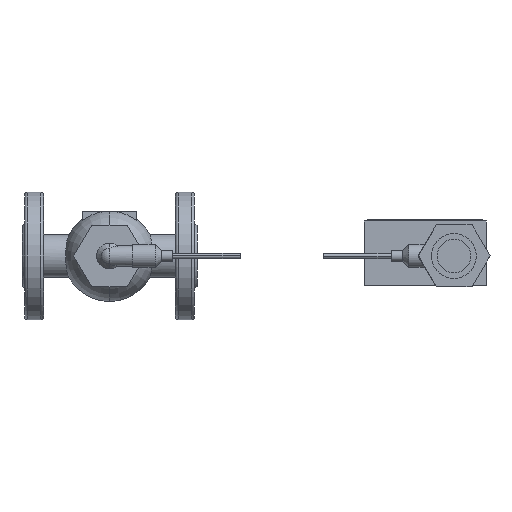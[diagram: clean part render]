
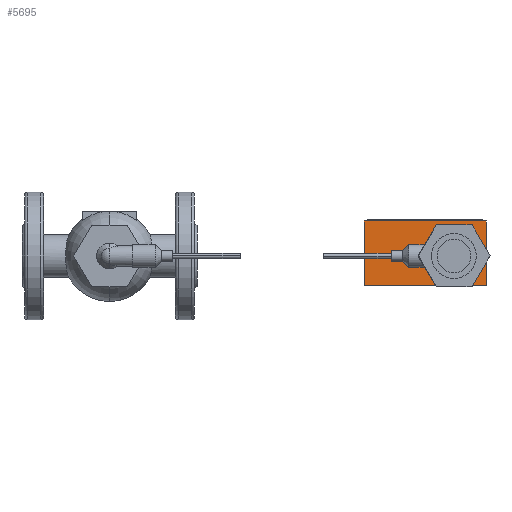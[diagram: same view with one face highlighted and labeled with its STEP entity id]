
A CAD part, front view. The second image highlights one B-rep face of the part: STEP entity #5695.
In plain terms, the highlighted planar face has unit normal (0, -1, 0).
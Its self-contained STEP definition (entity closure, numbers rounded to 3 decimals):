
#445 = CARTESIAN_POINT ( 'NONE',  ( 255.855, -288.685, 19. ) ) ;
#1132 = CARTESIAN_POINT ( 'NONE',  ( 255.855, -288.685, -19. ) ) ;
#1133 = DIRECTION ( 'NONE',  ( 0., 0., 1. ) ) ;
#1134 = DIRECTION ( 'NONE',  ( 0., -1., 0. ) ) ;
#1135 = CARTESIAN_POINT ( 'NONE',  ( 255.855, -288.685, 0. ) ) ;
#1136 = AXIS2_PLACEMENT_3D ( 'NONE', #1135, #1134, #1133 ) ;
#1137 = CIRCLE ( 'NONE', #1136, 19. ) ;
#1265 = DIRECTION ( 'NONE',  ( 1., 0., 0. ) ) ;
#1266 = VECTOR ( 'NONE', #1265, 1000. ) ;
#1267 = CARTESIAN_POINT ( 'NONE',  ( 279.855, -288.685, -22. ) ) ;
#1268 = LINE ( 'NONE', #1267, #1266 ) ;
#1290 = CARTESIAN_POINT ( 'NONE',  ( 279.855, -288.685, 26. ) ) ;
#1291 = CARTESIAN_POINT ( 'NONE',  ( 189.355, -288.685, 26. ) ) ;
#1292 = DIRECTION ( 'NONE',  ( 1., 0., 0. ) ) ;
#1293 = VECTOR ( 'NONE', #1292, 1000. ) ;
#1294 = CARTESIAN_POINT ( 'NONE',  ( 279.855, -288.685, 26. ) ) ;
#1295 = LINE ( 'NONE', #1294, #1293 ) ;
#1378 = CARTESIAN_POINT ( 'NONE',  ( 279.855, -288.685, -22. ) ) ;
#1379 = CARTESIAN_POINT ( 'NONE',  ( 189.355, -288.685, -22. ) ) ;
#1473 = DIRECTION ( 'NONE',  ( 0., 0., -1. ) ) ;
#1474 = VECTOR ( 'NONE', #1473, 1000. ) ;
#1475 = CARTESIAN_POINT ( 'NONE',  ( 189.355, -288.685, 26. ) ) ;
#1476 = LINE ( 'NONE', #1475, #1474 ) ;
#1575 = DIRECTION ( 'NONE',  ( 0., 0., 1. ) ) ;
#1576 = DIRECTION ( 'NONE',  ( 0., 1., 0. ) ) ;
#1577 = CARTESIAN_POINT ( 'NONE',  ( 279.855, -288.685, 26. ) ) ;
#1578 = AXIS2_PLACEMENT_3D ( 'NONE', #1577, #1576, #1575 ) ;
#1579 = PLANE ( 'NONE',  #1578 ) ;
#1581 = FACE_OUTER_BOUND ( 'NONE', #5937, .T. ) ;
#1582 = FACE_BOUND ( 'NONE', #5696, .T. ) ;
#2298 = DIRECTION ( 'NONE',  ( 0., 0., 1. ) ) ;
#2299 = DIRECTION ( 'NONE',  ( 0., -1., 0. ) ) ;
#2300 = AXIS2_PLACEMENT_3D ( 'NONE', #2352, #2299, #2298 ) ;
#2347 = CIRCLE ( 'NONE', #2300, 19. ) ;
#2352 = CARTESIAN_POINT ( 'NONE',  ( 255.855, -288.685, 0. ) ) ;
#2433 = DIRECTION ( 'NONE',  ( 0., 0., -1. ) ) ;
#2434 = VECTOR ( 'NONE', #2433, 1000. ) ;
#2435 = CARTESIAN_POINT ( 'NONE',  ( 279.855, -288.685, 26. ) ) ;
#2436 = LINE ( 'NONE', #2435, #2434 ) ;
#5142 = VERTEX_POINT ( 'NONE', #445 ) ;
#5345 = EDGE_CURVE ( 'NONE', #5346, #5142, #1137, .T. ) ;
#5346 = VERTEX_POINT ( 'NONE', #1132 ) ;
#5495 = EDGE_CURVE ( 'NONE', #5496, #5497, #1295, .T. ) ;
#5496 = VERTEX_POINT ( 'NONE', #1291 ) ;
#5497 = VERTEX_POINT ( 'NONE', #1290 ) ;
#5532 = EDGE_CURVE ( 'NONE', #5533, #5534, #1268, .T. ) ;
#5533 = VERTEX_POINT ( 'NONE', #1379 ) ;
#5534 = VERTEX_POINT ( 'NONE', #1378 ) ;
#5598 = EDGE_CURVE ( 'NONE', #5496, #5533, #1476, .T. ) ;
#5695 = ADVANCED_FACE ( 'NONE', ( #1582, #1581 ), #1579, .F. ) ;
#5696 = EDGE_LOOP ( 'NONE', ( #5935, #5936 ) ) ;
#5873 = EDGE_CURVE ( 'NONE', #5142, #5346, #2347, .T. ) ;
#5935 = ORIENTED_EDGE ( 'NONE', *, *, #5345, .F. ) ;
#5936 = ORIENTED_EDGE ( 'NONE', *, *, #5873, .F. ) ;
#5937 = EDGE_LOOP ( 'NONE', ( #5938, #5939, #5940, #5942 ) ) ;
#5938 = ORIENTED_EDGE ( 'NONE', *, *, #5598, .T. ) ;
#5939 = ORIENTED_EDGE ( 'NONE', *, *, #5532, .T. ) ;
#5940 = ORIENTED_EDGE ( 'NONE', *, *, #5941, .F. ) ;
#5941 = EDGE_CURVE ( 'NONE', #5497, #5534, #2436, .T. ) ;
#5942 = ORIENTED_EDGE ( 'NONE', *, *, #5495, .F. ) ;
